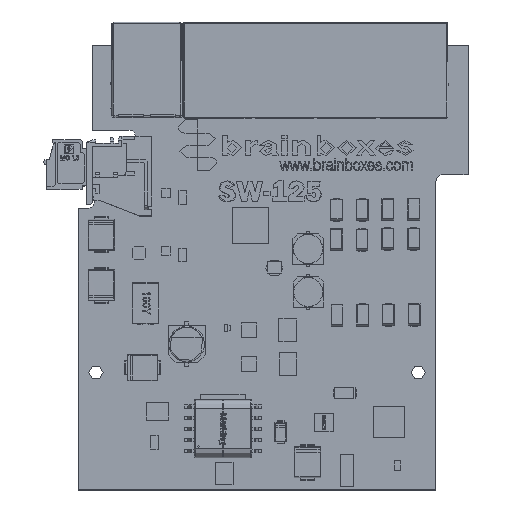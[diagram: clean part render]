
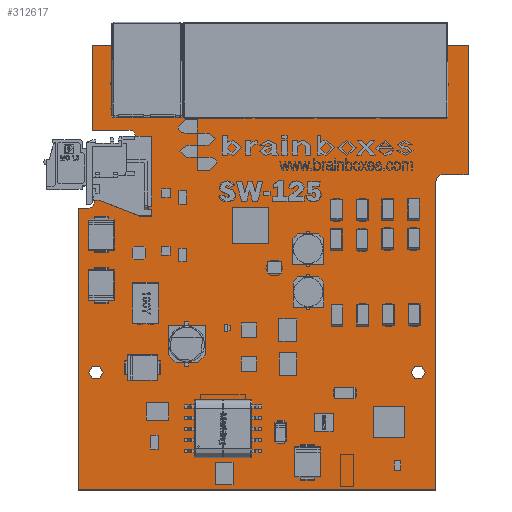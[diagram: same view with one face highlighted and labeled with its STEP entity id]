
A CAD part, top view. The second image highlights one B-rep face of the part: STEP entity #312617.
In plain terms, the highlighted planar face has unit normal (0, 0, 1).
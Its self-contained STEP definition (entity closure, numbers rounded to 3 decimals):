
#312490 = VERTEX_POINT('',#312491);
#312491 = CARTESIAN_POINT('',(30.598,-23.393,1.616));
#312509 = VERTEX_POINT('',#312510);
#312510 = CARTESIAN_POINT('',(33.773,-23.393,1.616));
#312516 = EDGE_CURVE('',#312509,#312490,#312517,.T.);
#312517 = CIRCLE('',#312518,1.588);
#312518 = AXIS2_PLACEMENT_3D('',#312519,#312520,#312521);
#312519 = CARTESIAN_POINT('',(32.185,-23.393,1.616));
#312520 = DIRECTION('',(0.,-0.,-1.));
#312521 = DIRECTION('',(1.,0.,0.));
#312540 = EDGE_CURVE('',#312490,#312509,#312541,.T.);
#312541 = CIRCLE('',#312542,1.588);
#312542 = AXIS2_PLACEMENT_3D('',#312543,#312544,#312545);
#312543 = CARTESIAN_POINT('',(32.185,-23.393,1.616));
#312544 = DIRECTION('',(0.,0.,-1.));
#312545 = DIRECTION('',(-1.,0.,0.));
#312556 = VERTEX_POINT('',#312557);
#312557 = CARTESIAN_POINT('',(-41.475,-23.393,1.616));
#312575 = VERTEX_POINT('',#312576);
#312576 = CARTESIAN_POINT('',(-38.3,-23.393,1.616));
#312582 = EDGE_CURVE('',#312575,#312556,#312583,.T.);
#312583 = CIRCLE('',#312584,1.588);
#312584 = AXIS2_PLACEMENT_3D('',#312585,#312586,#312587);
#312585 = CARTESIAN_POINT('',(-39.887,-23.393,1.616));
#312586 = DIRECTION('',(0.,-0.,-1.));
#312587 = DIRECTION('',(1.,0.,0.));
#312606 = EDGE_CURVE('',#312556,#312575,#312607,.T.);
#312607 = CIRCLE('',#312608,1.588);
#312608 = AXIS2_PLACEMENT_3D('',#312609,#312610,#312611);
#312609 = CARTESIAN_POINT('',(-39.887,-23.393,1.616));
#312610 = DIRECTION('',(0.,0.,-1.));
#312611 = DIRECTION('',(-1.,0.,0.));
#312617 = ADVANCED_FACE('',(#312618,#312622,#312626),#312785,.T.);
#312618 = FACE_BOUND('',#312619,.T.);
#312619 = EDGE_LOOP('',(#312620,#312621));
#312620 = ORIENTED_EDGE('',*,*,#312540,.T.);
#312621 = ORIENTED_EDGE('',*,*,#312516,.T.);
#312622 = FACE_BOUND('',#312623,.T.);
#312623 = EDGE_LOOP('',(#312624,#312625));
#312624 = ORIENTED_EDGE('',*,*,#312606,.T.);
#312625 = ORIENTED_EDGE('',*,*,#312582,.T.);
#312626 = FACE_BOUND('',#312627,.T.);
#312627 = EDGE_LOOP('',(#312628,#312638,#312646,#312654,#312663,#312671,
    #312679,#312687,#312695,#312703,#312712,#312720,#312729,#312737,
    #312745,#312754,#312762,#312770,#312779));
#312628 = ORIENTED_EDGE('',*,*,#312629,.T.);
#312629 = EDGE_CURVE('',#312630,#312632,#312634,.T.);
#312630 = VERTEX_POINT('',#312631);
#312631 = CARTESIAN_POINT('',(-43.851,13.373,1.616));
#312632 = VERTEX_POINT('',#312633);
#312633 = CARTESIAN_POINT('',(-43.851,-49.631,1.616));
#312634 = LINE('',#312635,#312636);
#312635 = CARTESIAN_POINT('',(-43.851,-18.129,1.616));
#312636 = VECTOR('',#312637,1.);
#312637 = DIRECTION('',(0.,-1.,0.));
#312638 = ORIENTED_EDGE('',*,*,#312639,.T.);
#312639 = EDGE_CURVE('',#312632,#312640,#312642,.T.);
#312640 = VERTEX_POINT('',#312641);
#312641 = CARTESIAN_POINT('',(36.149,-49.631,1.616));
#312642 = LINE('',#312643,#312644);
#312643 = CARTESIAN_POINT('',(-3.851,-49.631,1.616));
#312644 = VECTOR('',#312645,1.);
#312645 = DIRECTION('',(1.,0.,0.));
#312646 = ORIENTED_EDGE('',*,*,#312647,.T.);
#312647 = EDGE_CURVE('',#312640,#312648,#312650,.T.);
#312648 = VERTEX_POINT('',#312649);
#312649 = CARTESIAN_POINT('',(36.149,19.334,1.616));
#312650 = LINE('',#312651,#312652);
#312651 = CARTESIAN_POINT('',(36.149,-15.148,1.616));
#312652 = VECTOR('',#312653,1.);
#312653 = DIRECTION('',(0.,1.,0.));
#312654 = ORIENTED_EDGE('',*,*,#312655,.T.);
#312655 = EDGE_CURVE('',#312648,#312656,#312658,.T.);
#312656 = VERTEX_POINT('',#312657);
#312657 = CARTESIAN_POINT('',(37.329,20.834,1.616));
#312658 = CIRCLE('',#312659,1.35);
#312659 = AXIS2_PLACEMENT_3D('',#312660,#312661,#312662);
#312660 = CARTESIAN_POINT('',(37.489,19.494,1.616));
#312661 = DIRECTION('',(-0.,0.,-1.));
#312662 = DIRECTION('',(-0.993,-0.119,0.));
#312663 = ORIENTED_EDGE('',*,*,#312664,.T.);
#312664 = EDGE_CURVE('',#312656,#312665,#312667,.T.);
#312665 = VERTEX_POINT('',#312666);
#312666 = CARTESIAN_POINT('',(43.349,20.834,1.616));
#312667 = LINE('',#312668,#312669);
#312668 = CARTESIAN_POINT('',(40.339,20.834,1.616));
#312669 = VECTOR('',#312670,1.);
#312670 = DIRECTION('',(1.,0.,0.));
#312671 = ORIENTED_EDGE('',*,*,#312672,.T.);
#312672 = EDGE_CURVE('',#312665,#312673,#312675,.T.);
#312673 = VERTEX_POINT('',#312674);
#312674 = CARTESIAN_POINT('',(43.349,49.857,1.616));
#312675 = LINE('',#312676,#312677);
#312676 = CARTESIAN_POINT('',(43.349,35.346,1.616));
#312677 = VECTOR('',#312678,1.);
#312678 = DIRECTION('',(0.,1.,0.));
#312679 = ORIENTED_EDGE('',*,*,#312680,.T.);
#312680 = EDGE_CURVE('',#312673,#312681,#312683,.T.);
#312681 = VERTEX_POINT('',#312682);
#312682 = CARTESIAN_POINT('',(-40.751,49.857,1.616));
#312683 = LINE('',#312684,#312685);
#312684 = CARTESIAN_POINT('',(1.299,49.857,1.616));
#312685 = VECTOR('',#312686,1.);
#312686 = DIRECTION('',(-1.,0.,0.));
#312687 = ORIENTED_EDGE('',*,*,#312688,.T.);
#312688 = EDGE_CURVE('',#312681,#312689,#312691,.T.);
#312689 = VERTEX_POINT('',#312690);
#312690 = CARTESIAN_POINT('',(-40.751,30.835,1.616));
#312691 = LINE('',#312692,#312693);
#312692 = CARTESIAN_POINT('',(-40.751,40.346,1.616));
#312693 = VECTOR('',#312694,1.);
#312694 = DIRECTION('',(0.,-1.,0.));
#312695 = ORIENTED_EDGE('',*,*,#312696,.T.);
#312696 = EDGE_CURVE('',#312689,#312697,#312699,.T.);
#312697 = VERTEX_POINT('',#312698);
#312698 = CARTESIAN_POINT('',(-32.261,30.835,1.616));
#312699 = LINE('',#312700,#312701);
#312700 = CARTESIAN_POINT('',(-36.506,30.835,1.616));
#312701 = VECTOR('',#312702,1.);
#312702 = DIRECTION('',(1.,0.,0.));
#312703 = ORIENTED_EDGE('',*,*,#312704,.T.);
#312704 = EDGE_CURVE('',#312697,#312705,#312707,.T.);
#312705 = VERTEX_POINT('',#312706);
#312706 = CARTESIAN_POINT('',(-31.099,29.634,1.616));
#312707 = CIRCLE('',#312708,1.185);
#312708 = AXIS2_PLACEMENT_3D('',#312709,#312710,#312711);
#312709 = CARTESIAN_POINT('',(-32.284,29.65,1.616));
#312710 = DIRECTION('',(0.,0.,-1.));
#312711 = DIRECTION('',(0.019,1.,0.));
#312712 = ORIENTED_EDGE('',*,*,#312713,.T.);
#312713 = EDGE_CURVE('',#312705,#312714,#312716,.T.);
#312714 = VERTEX_POINT('',#312715);
#312715 = CARTESIAN_POINT('',(-31.099,20.573,1.616));
#312716 = LINE('',#312717,#312718);
#312717 = CARTESIAN_POINT('',(-31.099,25.104,1.616));
#312718 = VECTOR('',#312719,1.);
#312719 = DIRECTION('',(0.,-1.,0.));
#312720 = ORIENTED_EDGE('',*,*,#312721,.T.);
#312721 = EDGE_CURVE('',#312714,#312722,#312724,.T.);
#312722 = VERTEX_POINT('',#312723);
#312723 = CARTESIAN_POINT('',(-32.299,19.373,1.616));
#312724 = CIRCLE('',#312725,1.2);
#312725 = AXIS2_PLACEMENT_3D('',#312726,#312727,#312728);
#312726 = CARTESIAN_POINT('',(-32.299,20.573,1.616));
#312727 = DIRECTION('',(0.,0.,-1.));
#312728 = DIRECTION('',(1.,0.,0.));
#312729 = ORIENTED_EDGE('',*,*,#312730,.T.);
#312730 = EDGE_CURVE('',#312722,#312731,#312733,.T.);
#312731 = VERTEX_POINT('',#312732);
#312732 = CARTESIAN_POINT('',(-38.799,19.373,1.616));
#312733 = LINE('',#312734,#312735);
#312734 = CARTESIAN_POINT('',(-35.549,19.373,1.616));
#312735 = VECTOR('',#312736,1.);
#312736 = DIRECTION('',(-1.,0.,0.));
#312737 = ORIENTED_EDGE('',*,*,#312738,.T.);
#312738 = EDGE_CURVE('',#312731,#312739,#312741,.T.);
#312739 = VERTEX_POINT('',#312740);
#312740 = CARTESIAN_POINT('',(-38.799,17.573,1.616));
#312741 = LINE('',#312742,#312743);
#312742 = CARTESIAN_POINT('',(-38.799,18.473,1.616));
#312743 = VECTOR('',#312744,1.);
#312744 = DIRECTION('',(0.,-1.,0.));
#312745 = ORIENTED_EDGE('',*,*,#312746,.T.);
#312746 = EDGE_CURVE('',#312739,#312747,#312749,.T.);
#312747 = VERTEX_POINT('',#312748);
#312748 = CARTESIAN_POINT('',(-39.999,16.373,1.616));
#312749 = CIRCLE('',#312750,1.2);
#312750 = AXIS2_PLACEMENT_3D('',#312751,#312752,#312753);
#312751 = CARTESIAN_POINT('',(-39.999,17.573,1.616));
#312752 = DIRECTION('',(0.,0.,-1.));
#312753 = DIRECTION('',(1.,0.,0.));
#312754 = ORIENTED_EDGE('',*,*,#312755,.T.);
#312755 = EDGE_CURVE('',#312747,#312756,#312758,.T.);
#312756 = VERTEX_POINT('',#312757);
#312757 = CARTESIAN_POINT('',(-40.299,16.373,1.616));
#312758 = LINE('',#312759,#312760);
#312759 = CARTESIAN_POINT('',(-40.149,16.373,1.616));
#312760 = VECTOR('',#312761,1.);
#312761 = DIRECTION('',(-1.,0.,0.));
#312762 = ORIENTED_EDGE('',*,*,#312763,.T.);
#312763 = EDGE_CURVE('',#312756,#312764,#312766,.T.);
#312764 = VERTEX_POINT('',#312765);
#312765 = CARTESIAN_POINT('',(-40.299,14.573,1.616));
#312766 = LINE('',#312767,#312768);
#312767 = CARTESIAN_POINT('',(-40.299,15.473,1.616));
#312768 = VECTOR('',#312769,1.);
#312769 = DIRECTION('',(0.,-1.,0.));
#312770 = ORIENTED_EDGE('',*,*,#312771,.T.);
#312771 = EDGE_CURVE('',#312764,#312772,#312774,.T.);
#312772 = VERTEX_POINT('',#312773);
#312773 = CARTESIAN_POINT('',(-41.499,13.373,1.616));
#312774 = CIRCLE('',#312775,1.2);
#312775 = AXIS2_PLACEMENT_3D('',#312776,#312777,#312778);
#312776 = CARTESIAN_POINT('',(-41.499,14.573,1.616));
#312777 = DIRECTION('',(0.,0.,-1.));
#312778 = DIRECTION('',(1.,0.,0.));
#312779 = ORIENTED_EDGE('',*,*,#312780,.T.);
#312780 = EDGE_CURVE('',#312772,#312630,#312781,.T.);
#312781 = LINE('',#312782,#312783);
#312782 = CARTESIAN_POINT('',(-42.675,13.373,1.616));
#312783 = VECTOR('',#312784,1.);
#312784 = DIRECTION('',(-1.,0.,0.));
#312785 = PLANE('',#312786);
#312786 = AXIS2_PLACEMENT_3D('',#312787,#312788,#312789);
#312787 = CARTESIAN_POINT('',(-2.594,2.208,1.616));
#312788 = DIRECTION('',(0.,0.,1.));
#312789 = DIRECTION('',(1.,0.,0.));
